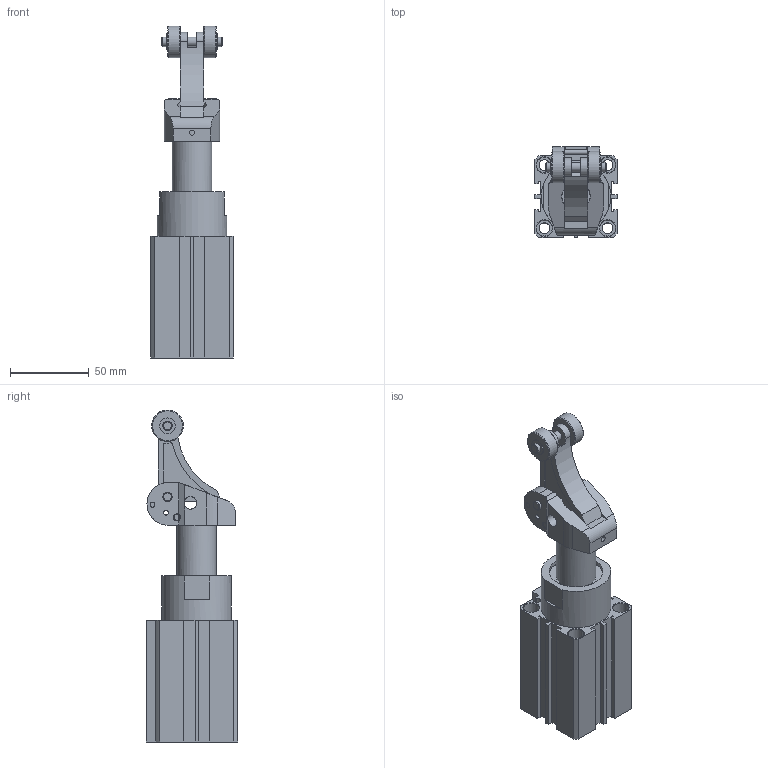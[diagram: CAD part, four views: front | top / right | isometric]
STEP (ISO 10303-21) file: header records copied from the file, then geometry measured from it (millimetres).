
FILE_DESCRIPTION((''),'2;1');
FILE_NAME('I:\3D電子目錄\氣缸\STD\STD40\STD40x25.stp','2007-09-20T13:29:23',('Administrator'),(''),'Autodesk Inventor 11','Autodesk Inventor 11','');
FILE_SCHEMA(('AUTOMOTIVE_DESIGN { 1 0 10303 214 1 1 1 1 }'));
Length unit declared in the file: millimetre
Products named in the file (1): STD40
Bounding box: 52 x 58 x 210.2 mm (x, y, z)
Volume: 279932.7 mm3; surface area: 61250.5 mm2
Topology: 4 solids, 4 shells, 261 faces, 684 edges, 442 vertices
Faces by surface type: plane 140, cylinder 76, cone 23, bspline 21, torus 1
Full cylindrical faces by diameter (mm): 2.2 x2, 3 x1, 3.1 x4, 3.8 x1, 4 x1, 6 x6, 6.8 x4, 8 x2, 10 x10, 20 x2, 25 x1, 25.2 x1, 29 x1, 34 x1, 35.7 x1, 42 x2, 44 x2, 44.5 x2
Entity records: 8607 total; most frequent: CARTESIAN_POINT 2403, DIRECTION 1277, ORIENTED_EDGE 1194, EDGE_CURVE 597, AXIS2_PLACEMENT_3D 470, VERTEX_POINT 425, EDGE_LOOP 382, VECTOR 337
